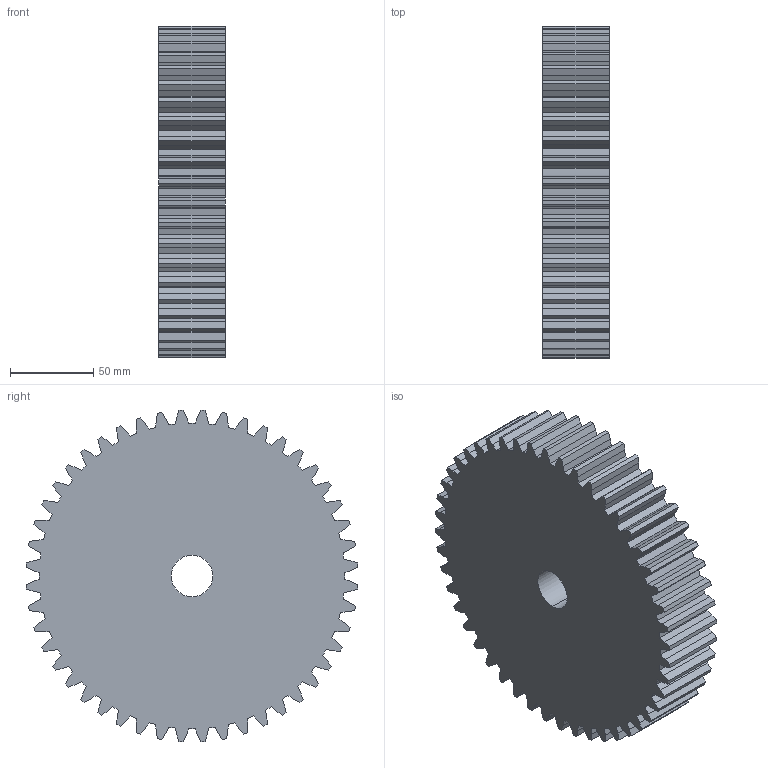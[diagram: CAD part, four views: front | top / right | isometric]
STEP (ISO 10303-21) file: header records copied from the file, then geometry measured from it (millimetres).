
FILE_DESCRIPTION (( 'STEP AP203' ), '1' );
FILE_NAME ('CM 31048.STEP', '2013-09-23T10:06:45', ( '' ), ( '' ), 'SwSTEP 2.0', 'SolidWorks 2010', '' );
FILE_SCHEMA (( 'CONFIG_CONTROL_DESIGN' ));
Length unit declared in the file: millimetre
Products named in the file (1): CM 31048
Bounding box: 40 x 199.73 x 199.73 mm (x, y, z)
Volume: 1128564.4 mm3; surface area: 105103 mm2
Topology: 1 solids, 1 shells, 292 faces, 870 edges, 580 vertices
Faces by surface type: plane 194, cylinder 98
Entity records: 10255 total; most frequent: CARTESIAN_POINT 3411, ORIENTED_EDGE 1740, DIRECTION 924, EDGE_CURVE 870, VERTEX_POINT 580, B_SPLINE_CURVE_WITH_KNOTS 556, AXIS2_PLACEMENT_3D 317, EDGE_LOOP 294
